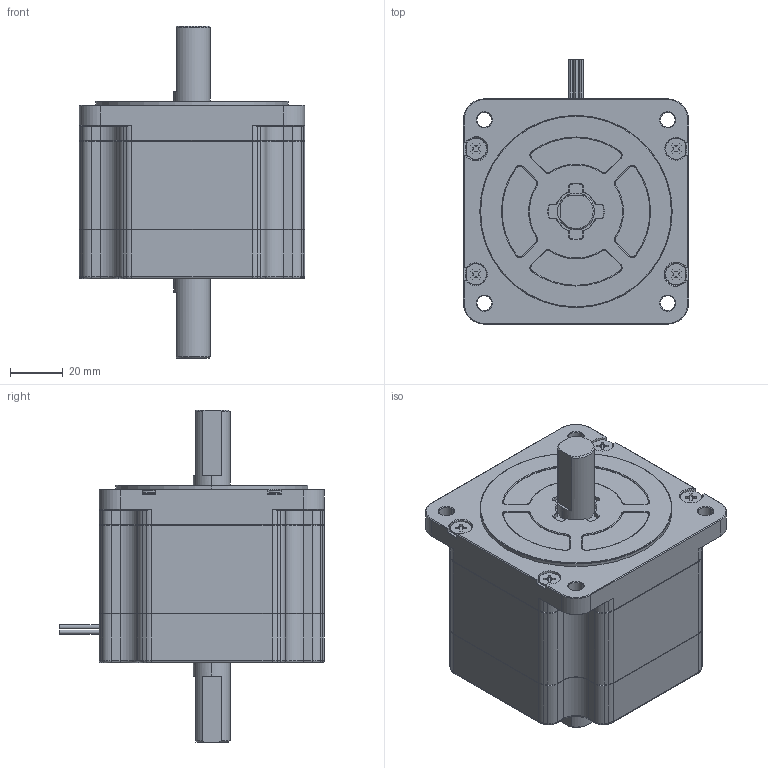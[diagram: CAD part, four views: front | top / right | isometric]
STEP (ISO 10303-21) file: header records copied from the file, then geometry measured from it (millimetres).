
FILE_DESCRIPTION (( 'STEP AP203' ), '1' );
FILE_NAME ('SH2861-0911.STEP', '2012-06-27T07:38:03', ( 'sanyodenki-admin' ), ( '' ), 'SwSTEP 2.0', 'SolidWorks 2011', '' );
FILE_SCHEMA (( 'CONFIG_CONTROL_DESIGN' ));
Length unit declared in the file: millimetre
Products named in the file (1): SH2861-0911
Bounding box: 85.5 x 100.5 x 126 mm (x, y, z)
Volume: 444151.7 mm3; surface area: 39490.1 mm2
Topology: 1 solids, 1 shells, 680 faces, 1691 edges, 1034 vertices
Faces by surface type: cylinder 248, plane 229, cone 143, torus 60
Entity records: 20256 total; most frequent: DIRECTION 3781, CARTESIAN_POINT 3478, ORIENTED_EDGE 3382, EDGE_CURVE 1691, AXIS2_PLACEMENT_3D 1433, VERTEX_POINT 1034, LINE 915, VECTOR 915
